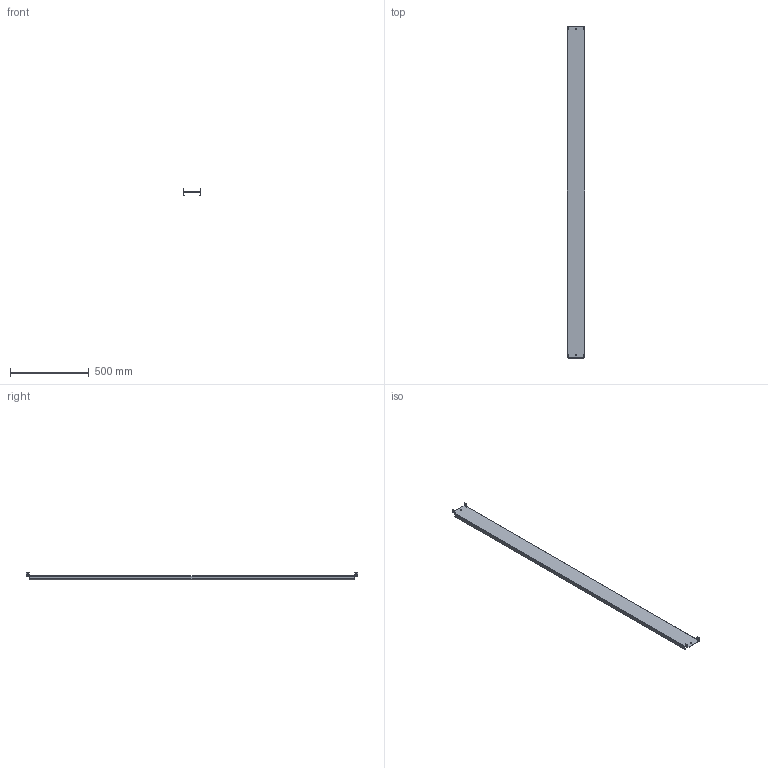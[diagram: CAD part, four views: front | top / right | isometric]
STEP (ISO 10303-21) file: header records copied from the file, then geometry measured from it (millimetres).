
FILE_DESCRIPTION (( 'STEP AP203' ), '1' );
FILE_NAME ('MP 220.11 Ïàíåëü ìîíòàæíàÿ ïðîìåæóòî÷íàÿ.STEP', '2012-11-26T12:35:53', ( 'system' ), ( '' ), 'SwSTEP 2.0', 'SolidWorks 2012', '' );
FILE_SCHEMA (( 'CONFIG_CONTROL_DESIGN' ));
Length unit declared in the file: millimetre
Products named in the file (1): MP 220.11 Ïàíåëü ìîíòàæíàÿ ïðîìåæóòî÷íàÿ
Bounding box: 114 x 2113 x 47 mm (x, y, z)
Volume: 903064.8 mm3; surface area: 734613.6 mm2
Topology: 1 solids, 1 shells, 92 faces, 238 edges, 148 vertices
Faces by surface type: plane 58, cylinder 34
Entity records: 2875 total; most frequent: DIRECTION 492, CARTESIAN_POINT 479, ORIENTED_EDGE 476, EDGE_CURVE 238, VECTOR 170, LINE 170, AXIS2_PLACEMENT_3D 161, VERTEX_POINT 148
